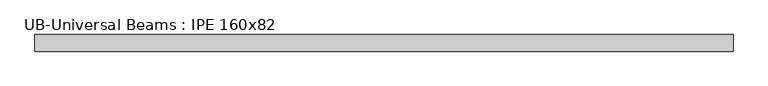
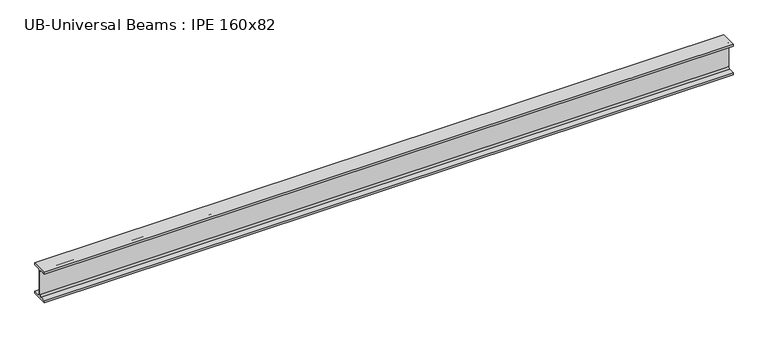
"""IFC4 building model written with IfcOpenShell, lengths in millimetres: beam geometry, UB-Universal Beams : IPE 160x82."""

from ifc_helpers import new_model, si_unit, point, frame, frame_2d, origin, place, context, project, spatial, polyline, circle_curve, trimmed, segment, composite_curve, outline, extrude, source, transform, mapped, element, save


def ub_universal_beams_ipe_160x82_633517aa(model_context):
    return source(origin(), model_context, "Body", "SweptSolid", [
        extrude(outline(composite_curve([segment(polyline([(-41.0, -69.8), (-11.9, -69.8)]), True, "CONTINUOUS"), segment(trimmed(circle_curve(frame_2d((-11.9, -60.9)), 8.9), [point((-11.9, -69.8))], [point((-3.0, -60.9))], True, "CARTESIAN"), True, "CONTINUOUS"), segment(polyline([(-3.0, -60.9), (-3.0, 60.9)]), True, "CONTINUOUS"), segment(trimmed(circle_curve(frame_2d((-11.9, 60.9)), 8.9), [point((-3.0, 60.9))], [point((-11.9, 69.8))], True, "CARTESIAN"), True, "CONTINUOUS"), segment(polyline([(-11.9, 69.8), (-41.0, 69.8), (-41.0, 80.0), (41.0, 80.0), (41.0, 69.8), (11.9, 69.8)]), True, "CONTINUOUS"), segment(trimmed(circle_curve(frame_2d((11.9, 60.9)), 8.9), [point((11.9, 69.8))], [point((3.0, 60.9))], True, "CARTESIAN"), True, "CONTINUOUS"), segment(polyline([(3.0, 60.9), (3.0, -60.9)]), True, "CONTINUOUS"), segment(trimmed(circle_curve(frame_2d((11.9, -60.9)), 8.9), [point((3.0, -60.9))], [point((11.9, -69.8))], True, "CARTESIAN"), True, "CONTINUOUS"), segment(polyline([(11.9, -69.8), (41.0, -69.8), (41.0, -80.0), (-41.0, -80.0), (-41.0, -69.8)]), True, "CONTINUOUS")], self_intersect=False)), frame((-1355.2, 0.0, 0.0), z_axis=(1.0, 0.0, 0.0), x_axis=(0.0, 1.0, 0.0)), (0.0, 0.0, 1.0), 3449.5),
    ])


if __name__ == "__main__":
    model = new_model("IFC4")
    model_context = context("Model", 3, world=origin())
    ifc_project = project(units=[si_unit("LENGTHUNIT", "METRE", prefix="MILLI")], contexts=[model_context])
    site = spatial("IfcSite", under=ifc_project)
    building = spatial("IfcBuilding", under=site)
    placement = place(None, origin())
    ub_universal_beams_ipe_160x82_shape = ub_universal_beams_ipe_160x82_633517aa(model_context)
    element("IfcBeam", 1, ObjectType="UB-Universal Beams : IPE 160x82", at=placement, inside=building, context=model_context, shape_type="MappedRepresentation", body=[
        mapped(ub_universal_beams_ipe_160x82_shape, transform((0.0, 0.0, 0.0), x_axis=(1.0, 0.0, 0.0), y_axis=(0.0, 1.0, 0.0), z_axis=(0.0, 0.0, 1.0))),
    ])
    save(model, "model.ifc")
